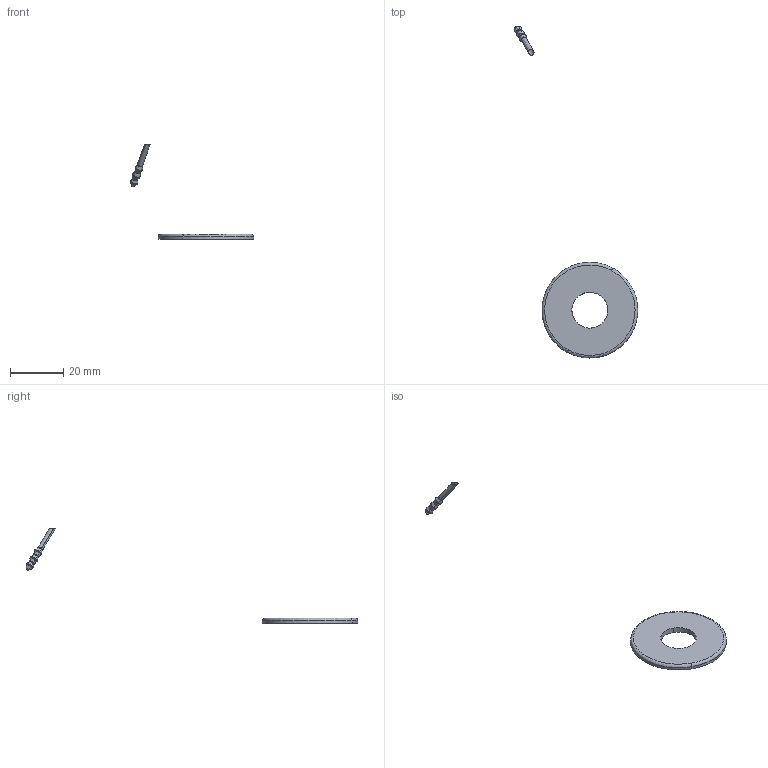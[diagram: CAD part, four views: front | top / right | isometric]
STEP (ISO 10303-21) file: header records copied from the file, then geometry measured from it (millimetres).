
FILE_DESCRIPTION (( 'STEP AP214' ), '1' );
FILE_NAME ('KTU-150WJ-GS-60.STEP', '2018-08-30T07:03:17', ( '' ), ( '' ), 'SwSTEP 2.0', 'SolidWorks 2010', '' );
FILE_SCHEMA (( 'AUTOMOTIVE_DESIGN' ));
Length unit declared in the file: millimetre
Products named in the file (1): KTU-150WJ-GS-60
Bounding box: 46.44 x 124.92 x 35.74 mm (x, y, z)
Volume: 1737.3 mm3; surface area: 2271.5 mm2
Topology: 2 solids, 2 shells, 91 faces, 226 edges, 138 vertices
Faces by surface type: bspline 88, plane 3
Entity records: 9281 total; most frequent: CARTESIAN_POINT 7752, ORIENTED_EDGE 452, EDGE_CURVE 226, B_SPLINE_CURVE_WITH_KNOTS 199, VERTEX_POINT 138, EDGE_LOOP 94, FACE_OUTER_BOUND 91, ADVANCED_FACE 91
